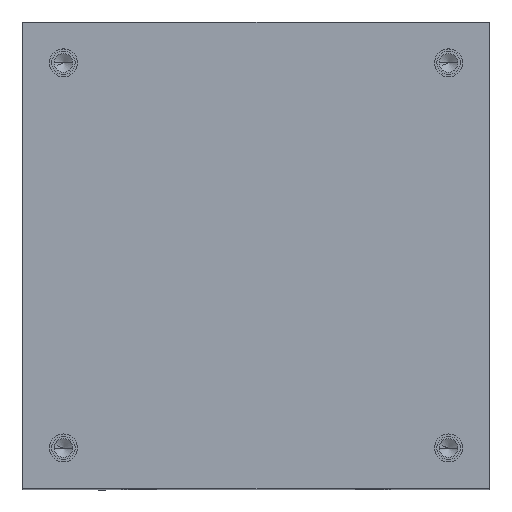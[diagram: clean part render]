
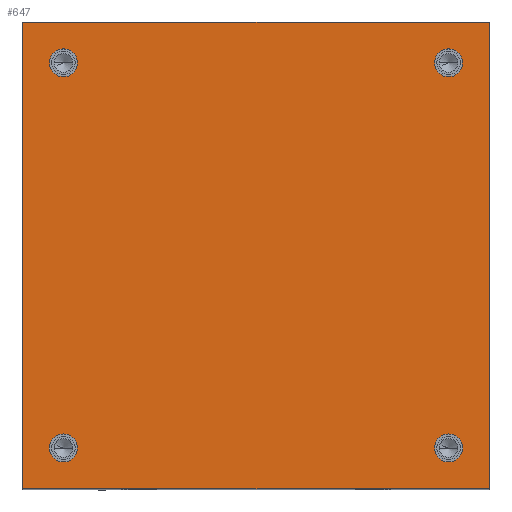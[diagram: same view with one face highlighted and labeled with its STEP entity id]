
A CAD part, top view. The second image highlights one B-rep face of the part: STEP entity #647.
In plain terms, the highlighted planar face has unit normal (0, 0, 1).
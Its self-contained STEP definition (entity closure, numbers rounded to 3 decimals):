
#647=ADVANCED_FACE('2:5531',(#1523,#1524,#1525,#1526,#1527),#1528,.T.);
#1523=FACE_OUTER_BOUND('',#2731,.T.);
#1524=FACE_BOUND('',#2732,.T.);
#1525=FACE_BOUND('',#2733,.T.);
#1526=FACE_BOUND('',#2734,.T.);
#1527=FACE_BOUND('',#2735,.T.);
#1528=PLANE('',#2736);
#2731=EDGE_LOOP('',(#4223,#4224,#4225,#4226));
#2732=EDGE_LOOP('',(#4227,#4228));
#2733=EDGE_LOOP('',(#4229,#4230));
#2734=EDGE_LOOP('',(#4231,#4232));
#2735=EDGE_LOOP('',(#4233,#4234));
#2736=AXIS2_PLACEMENT_3D('',#4235,#4236,#4237);
#4223=ORIENTED_EDGE('',*,*,#7266,.F.);
#4224=ORIENTED_EDGE('',*,*,#7132,.F.);
#4225=ORIENTED_EDGE('',*,*,#7267,.F.);
#4226=ORIENTED_EDGE('',*,*,#7268,.F.);
#4227=ORIENTED_EDGE('',*,*,#7269,.T.);
#4228=ORIENTED_EDGE('',*,*,#7270,.T.);
#4229=ORIENTED_EDGE('',*,*,#7271,.T.);
#4230=ORIENTED_EDGE('',*,*,#7272,.T.);
#4231=ORIENTED_EDGE('',*,*,#7273,.T.);
#4232=ORIENTED_EDGE('',*,*,#7274,.T.);
#4233=ORIENTED_EDGE('',*,*,#7275,.T.);
#4234=ORIENTED_EDGE('',*,*,#7276,.T.);
#4235=CARTESIAN_POINT('',(0.0,0.0,2.15));
#4236=DIRECTION('',(0.0,0.0,1.0));
#4237=DIRECTION('',(1.0,0.0,0.0));
#7132=EDGE_CURVE('0:6676',#8528,#8529,#8530,.T.);
#7266=EDGE_CURVE('0:6673',#8529,#8771,#8772,.T.);
#7267=EDGE_CURVE('0:6679',#8773,#8528,#8774,.T.);
#7268=EDGE_CURVE('0:6682',#8771,#8773,#8775,.T.);
#7269=EDGE_CURVE('2:5374',#8776,#8777,#8778,.T.);
#7270=EDGE_CURVE('',#8777,#8776,#8779,.T.);
#7271=EDGE_CURVE('2:4119',#8780,#8781,#8782,.T.);
#7272=EDGE_CURVE('',#8781,#8780,#8783,.T.);
#7273=EDGE_CURVE('2:5352',#8784,#8785,#8786,.T.);
#7274=EDGE_CURVE('',#8785,#8784,#8787,.T.);
#7275=EDGE_CURVE('2:2344',#8788,#8789,#8790,.T.);
#7276=EDGE_CURVE('',#8789,#8788,#8791,.T.);
#8528=VERTEX_POINT('',#10668);
#8529=VERTEX_POINT('',#10669);
#8530=LINE('',#10670,#10671);
#8771=VERTEX_POINT('',#11152);
#8772=LINE('',#11153,#11154);
#8773=VERTEX_POINT('',#11155);
#8774=LINE('',#11156,#11157);
#8775=LINE('',#11158,#11159);
#8776=VERTEX_POINT('',#11160);
#8777=VERTEX_POINT('',#11161);
#8778=CIRCLE('',#11162,1.2);
#8779=CIRCLE('',#11163,1.2);
#8780=VERTEX_POINT('',#11164);
#8781=VERTEX_POINT('',#11165);
#8782=CIRCLE('',#11166,1.2);
#8783=CIRCLE('',#11167,1.2);
#8784=VERTEX_POINT('',#11168);
#8785=VERTEX_POINT('',#11169);
#8786=CIRCLE('',#11170,1.2);
#8787=CIRCLE('',#11171,1.2);
#8788=VERTEX_POINT('',#11172);
#8789=VERTEX_POINT('',#11173);
#8790=CIRCLE('',#11174,1.2);
#8791=CIRCLE('',#11175,1.2);
#10668=CARTESIAN_POINT('',(0.0,0.0,2.15));
#10669=CARTESIAN_POINT('',(0.0,40.0,2.15));
#10670=CARTESIAN_POINT('',(0.0,40.0,2.15));
#10671=VECTOR('',#14181,1.0);
#11152=CARTESIAN_POINT('',(40.0,40.0,2.15));
#11153=CARTESIAN_POINT('',(40.0,40.0,2.15));
#11154=VECTOR('',#14356,1.0);
#11155=CARTESIAN_POINT('',(40.0,0.0,2.15));
#11156=CARTESIAN_POINT('',(0.0,0.0,2.15));
#11157=VECTOR('',#14357,1.0);
#11158=CARTESIAN_POINT('',(40.0,0.0,2.15));
#11159=VECTOR('',#14358,1.0);
#11160=CARTESIAN_POINT('',(35.3,3.5,2.15));
#11161=CARTESIAN_POINT('',(37.7,3.5,2.15));
#11162=AXIS2_PLACEMENT_3D('',#14359,#14360,#14361);
#11163=AXIS2_PLACEMENT_3D('',#14362,#14363,#14364);
#11164=CARTESIAN_POINT('',(37.7,36.5,2.15));
#11165=CARTESIAN_POINT('',(35.3,36.5,2.15));
#11166=AXIS2_PLACEMENT_3D('',#14365,#14366,#14367);
#11167=AXIS2_PLACEMENT_3D('',#14368,#14369,#14370);
#11168=CARTESIAN_POINT('',(2.3,3.5,2.15));
#11169=CARTESIAN_POINT('',(4.7,3.5,2.15));
#11170=AXIS2_PLACEMENT_3D('',#14371,#14372,#14373);
#11171=AXIS2_PLACEMENT_3D('',#14374,#14375,#14376);
#11172=CARTESIAN_POINT('',(4.7,36.5,2.15));
#11173=CARTESIAN_POINT('',(2.3,36.5,2.15));
#11174=AXIS2_PLACEMENT_3D('',#14377,#14378,#14379);
#11175=AXIS2_PLACEMENT_3D('',#14380,#14381,#14382);
#14181=DIRECTION('',(0.0,1.0,0.0));
#14356=DIRECTION('',(1.0,0.0,0.0));
#14357=DIRECTION('',(-1.0,-0.0,-0.0));
#14358=DIRECTION('',(-0.0,-1.0,-0.0));
#14359=CARTESIAN_POINT('',(36.5,3.5,2.15));
#14360=DIRECTION('',(0.0,0.0,-1.0));
#14361=DIRECTION('',(1.0,0.0,0.0));
#14362=CARTESIAN_POINT('',(36.5,3.5,2.15));
#14363=DIRECTION('',(0.0,0.0,-1.0));
#14364=DIRECTION('',(1.0,0.0,0.0));
#14365=CARTESIAN_POINT('',(36.5,36.5,2.15));
#14366=DIRECTION('',(0.0,0.0,-1.0));
#14367=DIRECTION('',(1.0,0.0,0.0));
#14368=CARTESIAN_POINT('',(36.5,36.5,2.15));
#14369=DIRECTION('',(0.0,0.0,-1.0));
#14370=DIRECTION('',(1.0,0.0,0.0));
#14371=CARTESIAN_POINT('',(3.5,3.5,2.15));
#14372=DIRECTION('',(0.0,0.0,-1.0));
#14373=DIRECTION('',(1.0,0.0,0.0));
#14374=CARTESIAN_POINT('',(3.5,3.5,2.15));
#14375=DIRECTION('',(0.0,0.0,-1.0));
#14376=DIRECTION('',(1.0,0.0,0.0));
#14377=CARTESIAN_POINT('',(3.5,36.5,2.15));
#14378=DIRECTION('',(0.0,0.0,-1.0));
#14379=DIRECTION('',(1.0,0.0,0.0));
#14380=CARTESIAN_POINT('',(3.5,36.5,2.15));
#14381=DIRECTION('',(0.0,0.0,-1.0));
#14382=DIRECTION('',(1.0,0.0,0.0));
